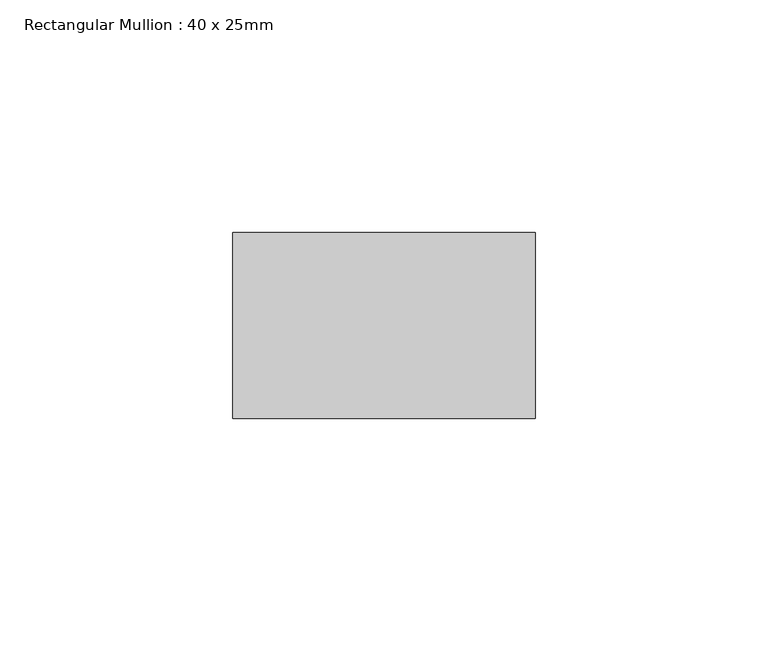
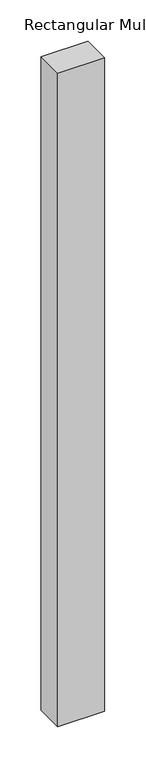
"""IFC4 building model written with IfcOpenShell, lengths in millimetres: member geometry, Rectangular Mullion : 40 x 25mm."""

from ifc_helpers import new_model, si_unit, frame, origin, place, context, project, spatial, polyline, outline, extrude, source, transform, mapped, element, save


def rectangular_mullion_40_x_25mm_f40bae33(model_context):
    return source(origin(), model_context, "Body", "SweptSolid", [
        extrude(outline(polyline([(0.0, -20.0), (0.0, -60.0), (-65.0, -60.0), (-65.0, -20.0), (0.0, -20.0)])), frame((0.0, 0.0, -962.9333333), z_axis=(0.0, 0.0, 1.0), x_axis=(1.0, 0.0, 0.0)), (0.0, 0.0, 1.0), 962.9333333),
    ])


if __name__ == "__main__":
    model = new_model("IFC4")
    model_context = context("Model", 3, world=origin())
    ifc_project = project(units=[si_unit("LENGTHUNIT", "METRE", prefix="MILLI")], contexts=[model_context])
    site = spatial("IfcSite", under=ifc_project)
    building = spatial("IfcBuilding", under=site)
    placement = place(None, origin())
    rectangular_mullion_40_x_25mm_shape = rectangular_mullion_40_x_25mm_f40bae33(model_context)
    element("IfcMember", 1, ObjectType="Rectangular Mullion : 40 x 25mm", at=placement, inside=building, context=model_context, shape_type="MappedRepresentation", body=[
        mapped(rectangular_mullion_40_x_25mm_shape, transform((0.0, 0.0, 0.0), x_axis=(1.0, 0.0, 0.0), y_axis=(0.0, 1.0, 0.0), z_axis=(0.0, 0.0, 1.0))),
    ])
    save(model, "model.ifc")
